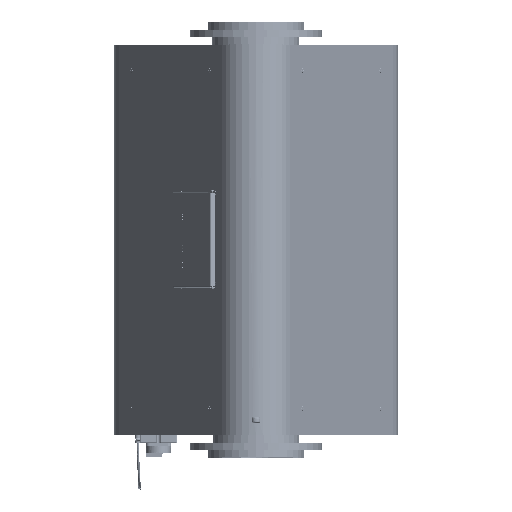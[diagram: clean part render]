
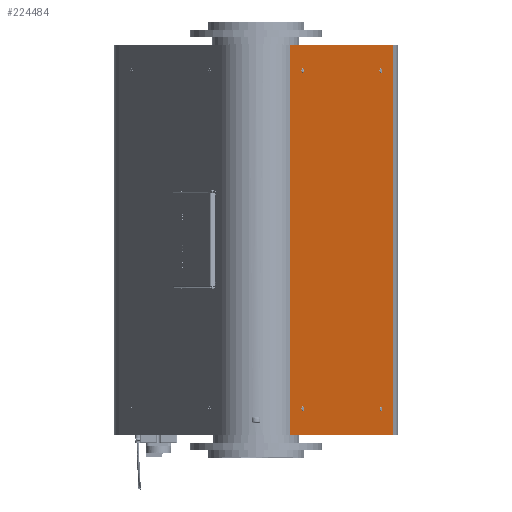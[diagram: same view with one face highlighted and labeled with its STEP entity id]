
A CAD part, top view. The second image highlights one B-rep face of the part: STEP entity #224484.
In plain terms, the highlighted planar face has unit normal (0.866, 0, 0.5) as drawn and (-0.866, 0, 0.5) by its records, which use the part's own axes.
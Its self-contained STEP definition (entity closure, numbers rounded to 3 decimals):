
#8387=FACE_BOUND('',#37134,.T.);
#8388=FACE_BOUND('',#37135,.T.);
#8389=FACE_BOUND('',#37136,.T.);
#8390=FACE_BOUND('',#37137,.T.);
#13535=PLANE('',#243687);
#23912=FACE_OUTER_BOUND('',#37133,.T.);
#37133=EDGE_LOOP('',(#189474,#189475,#189476,#189477));
#37134=EDGE_LOOP('',(#189478,#189479,#189480,#189481));
#37135=EDGE_LOOP('',(#189482,#189483,#189484,#189485));
#37136=EDGE_LOOP('',(#189486,#189487,#189488,#189489));
#37137=EDGE_LOOP('',(#189490,#189491,#189492,#189493));
#46738=CIRCLE('',#243651,2.75);
#46740=CIRCLE('',#243655,2.75);
#46742=CIRCLE('',#243659,2.75);
#46744=CIRCLE('',#243663,2.75);
#46746=CIRCLE('',#243667,2.75);
#46748=CIRCLE('',#243671,2.75);
#46750=CIRCLE('',#243675,2.75);
#46752=CIRCLE('',#243679,2.75);
#61132=LINE('',#522149,#78811);
#61136=LINE('',#522160,#78815);
#61140=LINE('',#522173,#78819);
#61144=LINE('',#522184,#78823);
#61148=LINE('',#522197,#78827);
#61152=LINE('',#522208,#78831);
#61156=LINE('',#522221,#78835);
#61160=LINE('',#522232,#78839);
#61164=LINE('',#522246,#78843);
#61165=LINE('',#522248,#78844);
#61166=LINE('',#522250,#78845);
#61167=LINE('',#522251,#78846);
#78811=VECTOR('',#288587,10.);
#78815=VECTOR('',#288599,10.);
#78819=VECTOR('',#288611,10.);
#78823=VECTOR('',#288623,10.);
#78827=VECTOR('',#288635,10.);
#78831=VECTOR('',#288647,10.);
#78835=VECTOR('',#288659,10.);
#78839=VECTOR('',#288671,10.);
#78843=VECTOR('',#288687,10.);
#78844=VECTOR('',#288688,10.);
#78845=VECTOR('',#288689,10.);
#78846=VECTOR('',#288690,100.88);
#104617=VERTEX_POINT('',#522139);
#104618=VERTEX_POINT('',#522140);
#104621=VERTEX_POINT('',#522148);
#104623=VERTEX_POINT('',#522154);
#104625=VERTEX_POINT('',#522163);
#104626=VERTEX_POINT('',#522164);
#104629=VERTEX_POINT('',#522172);
#104631=VERTEX_POINT('',#522178);
#104633=VERTEX_POINT('',#522187);
#104634=VERTEX_POINT('',#522188);
#104637=VERTEX_POINT('',#522196);
#104639=VERTEX_POINT('',#522202);
#104641=VERTEX_POINT('',#522211);
#104642=VERTEX_POINT('',#522212);
#104645=VERTEX_POINT('',#522220);
#104647=VERTEX_POINT('',#522226);
#104651=VERTEX_POINT('',#522241);
#104652=VERTEX_POINT('',#522245);
#104653=VERTEX_POINT('',#522247);
#104654=VERTEX_POINT('',#522249);
#133800=EDGE_CURVE('',#104617,#104618,#46738,.T.);
#133804=EDGE_CURVE('',#104621,#104617,#61132,.T.);
#133807=EDGE_CURVE('',#104623,#104621,#46740,.T.);
#133810=EDGE_CURVE('',#104618,#104623,#61136,.T.);
#133812=EDGE_CURVE('',#104625,#104626,#46742,.T.);
#133816=EDGE_CURVE('',#104629,#104625,#61140,.T.);
#133819=EDGE_CURVE('',#104631,#104629,#46744,.T.);
#133822=EDGE_CURVE('',#104626,#104631,#61144,.T.);
#133824=EDGE_CURVE('',#104633,#104634,#46746,.T.);
#133828=EDGE_CURVE('',#104637,#104633,#61148,.T.);
#133831=EDGE_CURVE('',#104639,#104637,#46748,.T.);
#133834=EDGE_CURVE('',#104634,#104639,#61152,.T.);
#133836=EDGE_CURVE('',#104641,#104642,#46750,.T.);
#133840=EDGE_CURVE('',#104645,#104641,#61156,.T.);
#133843=EDGE_CURVE('',#104647,#104645,#46752,.T.);
#133846=EDGE_CURVE('',#104642,#104647,#61160,.T.);
#133853=EDGE_CURVE('',#104652,#104651,#61164,.T.);
#133854=EDGE_CURVE('',#104653,#104652,#61165,.T.);
#133855=EDGE_CURVE('',#104653,#104654,#61166,.T.);
#133856=EDGE_CURVE('',#104651,#104654,#61167,.T.);
#189474=ORIENTED_EDGE('',*,*,#133853,.F.);
#189475=ORIENTED_EDGE('',*,*,#133854,.F.);
#189476=ORIENTED_EDGE('',*,*,#133855,.T.);
#189477=ORIENTED_EDGE('',*,*,#133856,.F.);
#189478=ORIENTED_EDGE('',*,*,#133800,.T.);
#189479=ORIENTED_EDGE('',*,*,#133810,.T.);
#189480=ORIENTED_EDGE('',*,*,#133807,.T.);
#189481=ORIENTED_EDGE('',*,*,#133804,.T.);
#189482=ORIENTED_EDGE('',*,*,#133812,.T.);
#189483=ORIENTED_EDGE('',*,*,#133822,.T.);
#189484=ORIENTED_EDGE('',*,*,#133819,.T.);
#189485=ORIENTED_EDGE('',*,*,#133816,.T.);
#189486=ORIENTED_EDGE('',*,*,#133824,.T.);
#189487=ORIENTED_EDGE('',*,*,#133834,.T.);
#189488=ORIENTED_EDGE('',*,*,#133831,.T.);
#189489=ORIENTED_EDGE('',*,*,#133828,.T.);
#189490=ORIENTED_EDGE('',*,*,#133836,.T.);
#189491=ORIENTED_EDGE('',*,*,#133846,.T.);
#189492=ORIENTED_EDGE('',*,*,#133843,.T.);
#189493=ORIENTED_EDGE('',*,*,#133840,.T.);
#224484=ADVANCED_FACE('',(#23912,#8387,#8388,#8389,#8390),#13535,.T.);
#243651=AXIS2_PLACEMENT_3D('',#522141,#288579,#288580);
#243655=AXIS2_PLACEMENT_3D('',#522155,#288592,#288593);
#243659=AXIS2_PLACEMENT_3D('',#522165,#288603,#288604);
#243663=AXIS2_PLACEMENT_3D('',#522179,#288616,#288617);
#243667=AXIS2_PLACEMENT_3D('',#522189,#288627,#288628);
#243671=AXIS2_PLACEMENT_3D('',#522203,#288640,#288641);
#243675=AXIS2_PLACEMENT_3D('',#522213,#288651,#288652);
#243679=AXIS2_PLACEMENT_3D('',#522227,#288664,#288665);
#243687=AXIS2_PLACEMENT_3D('',#522244,#288685,#288686);
#288579=DIRECTION('center_axis',(0.866,0.,
-0.5));
#288580=DIRECTION('ref_axis',(0.,1.,0.));
#288587=DIRECTION('',(0.5,0.,0.866));
#288592=DIRECTION('center_axis',(0.866,0.,
-0.5));
#288593=DIRECTION('ref_axis',(0.,-1.,0.));
#288599=DIRECTION('',(-0.5,0.,-0.866));
#288603=DIRECTION('center_axis',(0.866,0.,
-0.5));
#288604=DIRECTION('ref_axis',(0.,-1.,0.));
#288611=DIRECTION('',(0.5,0.,0.866));
#288616=DIRECTION('center_axis',(0.866,0.,
-0.5));
#288617=DIRECTION('ref_axis',(0.,1.,0.));
#288623=DIRECTION('',(-0.5,0.,-0.866));
#288627=DIRECTION('center_axis',(0.866,0.,
-0.5));
#288628=DIRECTION('ref_axis',(0.,-1.,0.));
#288635=DIRECTION('',(-0.5,0.,-0.866));
#288640=DIRECTION('center_axis',(0.866,0.,
-0.5));
#288641=DIRECTION('ref_axis',(0.,1.,0.));
#288647=DIRECTION('',(0.5,0.,0.866));
#288651=DIRECTION('center_axis',(0.866,0.,
-0.5));
#288652=DIRECTION('ref_axis',(0.,-1.,0.));
#288659=DIRECTION('',(0.5,0.,0.866));
#288664=DIRECTION('center_axis',(0.866,0.,
-0.5));
#288665=DIRECTION('ref_axis',(0.,1.,0.));
#288671=DIRECTION('',(-0.5,0.,-0.866));
#288685=DIRECTION('center_axis',(-0.866,0.,
0.5));
#288686=DIRECTION('ref_axis',(0.5,0.,0.866));
#288687=DIRECTION('',(0.,1.,0.));
#288688=DIRECTION('',(-0.5,0.,-0.866));
#288689=DIRECTION('',(0.,1.,0.));
#288690=DIRECTION('',(0.5,0.,0.866));
#522139=CARTESIAN_POINT('',(-119.085,-430.75,552.403));
#522140=CARTESIAN_POINT('',(-119.085,-436.25,552.403));
#522141=CARTESIAN_POINT('Origin',(-119.085,-433.5,552.403));
#522148=CARTESIAN_POINT('',(-120.085,-430.75,550.671));
#522149=CARTESIAN_POINT('',(-79.049,-430.75,621.746));
#522154=CARTESIAN_POINT('',(-120.085,-436.25,550.671));
#522155=CARTESIAN_POINT('Origin',(-120.085,-433.5,550.671));
#522160=CARTESIAN_POINT('',(-78.549,-436.25,622.612));
#522163=CARTESIAN_POINT('',(-119.085,436.25,552.403));
#522164=CARTESIAN_POINT('',(-119.085,430.75,552.403));
#522165=CARTESIAN_POINT('Origin',(-119.085,433.5,552.403));
#522172=CARTESIAN_POINT('',(-120.085,436.25,550.671));
#522173=CARTESIAN_POINT('',(-79.049,436.25,621.746));
#522178=CARTESIAN_POINT('',(-120.085,430.75,550.671));
#522179=CARTESIAN_POINT('Origin',(-120.085,433.5,550.671));
#522184=CARTESIAN_POINT('',(-78.549,430.75,622.612));
#522187=CARTESIAN_POINT('',(-320.085,430.75,204.261));
#522188=CARTESIAN_POINT('',(-320.085,436.25,204.261));
#522189=CARTESIAN_POINT('Origin',(-320.085,433.5,204.261));
#522196=CARTESIAN_POINT('',(-319.085,430.75,205.993));
#522197=CARTESIAN_POINT('',(-178.549,430.75,449.407));
#522202=CARTESIAN_POINT('',(-319.085,436.25,205.993));
#522203=CARTESIAN_POINT('Origin',(-319.085,433.5,205.993));
#522208=CARTESIAN_POINT('',(-179.049,436.25,448.541));
#522211=CARTESIAN_POINT('',(-319.085,-430.75,205.993));
#522212=CARTESIAN_POINT('',(-319.085,-436.25,205.993));
#522213=CARTESIAN_POINT('Origin',(-319.085,-433.5,205.993));
#522220=CARTESIAN_POINT('',(-320.085,-430.75,204.261));
#522221=CARTESIAN_POINT('',(-179.049,-430.75,448.541));
#522226=CARTESIAN_POINT('',(-320.085,-436.25,204.261));
#522227=CARTESIAN_POINT('Origin',(-320.085,-433.5,204.261));
#522232=CARTESIAN_POINT('',(-178.549,-436.25,449.407));
#522241=CARTESIAN_POINT('',(-350.835,500.,151.));
#522244=CARTESIAN_POINT('Origin',(-38.014,0.,
692.821));
#522245=CARTESIAN_POINT('',(-350.835,-500.,151.));
#522246=CARTESIAN_POINT('',(-350.835,0.,151.));
#522247=CARTESIAN_POINT('',(-88.335,-500.,605.663));
#522248=CARTESIAN_POINT('',(-382.297,-500.,96.505));
#522249=CARTESIAN_POINT('',(-88.335,500.,605.663));
#522250=CARTESIAN_POINT('',(-88.335,0.,605.663));
#522251=CARTESIAN_POINT('',(438.269,500.,1517.767));
